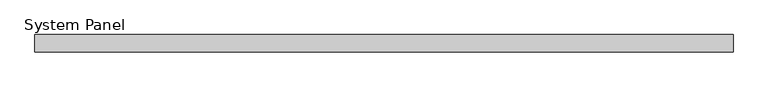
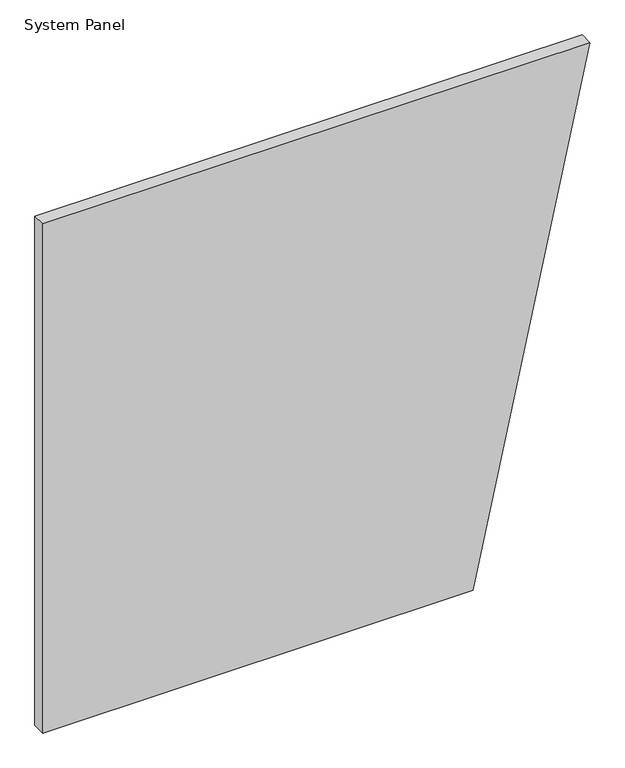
"""IFC4 building model written with IfcOpenShell, lengths in millimetres: plate geometry, System Panel : Purline 25mm Horizontal - Plain RHEA - PUR."""

from ifc_helpers import new_model, si_unit, frame, origin, place, context, project, spatial, polyline, outline, extrude, source, transform, mapped, element, save


def system_panel_065bc8c0(model_context):
    return source(origin(), model_context, "Body", "SweptSolid", [
        extrude(outline(polyline([(0.0, -508.6965258), (0.0, 291.3034742), (1000.0, 508.6965258), (1000.0, -508.6965258), (0.0, -508.6965258)])), frame((0.0, -25.0, 0.0), z_axis=(0.0, 1.0, 0.0), x_axis=(0.0, 0.0, 1.0)), (0.0, 0.0, 1.0), 25.0),
    ])


if __name__ == "__main__":
    model = new_model("IFC4")
    model_context = context("Model", 3, world=origin())
    ifc_project = project(units=[si_unit("LENGTHUNIT", "METRE", prefix="MILLI")], contexts=[model_context])
    site = spatial("IfcSite", under=ifc_project)
    building = spatial("IfcBuilding", under=site)
    placement = place(None, origin())
    system_panel_shape = system_panel_065bc8c0(model_context)
    element("IfcPlate", 1, ObjectType="System Panel : Purline 25mm Horizontal - Plain RHEA - PUR", at=placement, inside=building, context=model_context, shape_type="MappedRepresentation", body=[
        mapped(system_panel_shape, transform((0.0, 0.0, 0.0), x_axis=(1.0, 0.0, 0.0), y_axis=(0.0, 1.0, 0.0), z_axis=(0.0, 0.0, 1.0))),
    ])
    save(model, "model.ifc")
